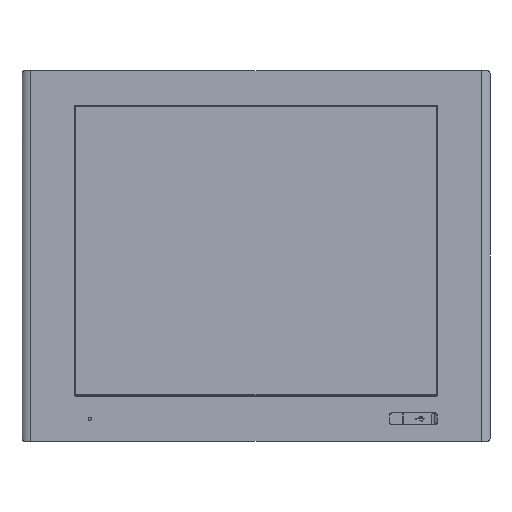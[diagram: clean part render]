
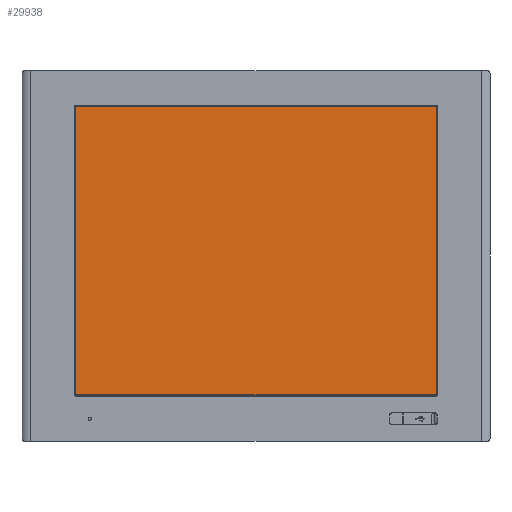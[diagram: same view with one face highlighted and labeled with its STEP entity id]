
A CAD part, front view. The second image highlights one B-rep face of the part: STEP entity #29938.
In plain terms, the highlighted planar face has unit normal (0, -1, 0).
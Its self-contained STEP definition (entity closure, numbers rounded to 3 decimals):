
#29734=DIRECTION('',(1.,0.,0.));
#29735=VECTOR('',#29734,377.3);
#29736=CARTESIAN_POINT('',(-188.65,-2.8,146.525));
#29737=LINE('',#29736,#29735);
#29738=DIRECTION('',(0.,0.,-1.));
#29739=VECTOR('',#29738,302.05);
#29740=CARTESIAN_POINT('',(188.65,-2.8,146.525));
#29741=LINE('',#29740,#29739);
#29742=DIRECTION('',(-1.,0.,0.));
#29743=VECTOR('',#29742,377.3);
#29744=CARTESIAN_POINT('',(188.65,-2.8,-155.525));
#29745=LINE('',#29744,#29743);
#29746=DIRECTION('',(0.,0.,1.));
#29747=VECTOR('',#29746,302.05);
#29748=CARTESIAN_POINT('',(-188.65,-2.8,-155.525));
#29749=LINE('',#29748,#29747);
#29778=CARTESIAN_POINT('',(188.65,-2.8,146.525));
#29779=CARTESIAN_POINT('',(-188.65,-2.8,146.525));
#29780=VERTEX_POINT('',#29778);
#29781=VERTEX_POINT('',#29779);
#29782=CARTESIAN_POINT('',(-188.65,-2.8,-155.525));
#29783=VERTEX_POINT('',#29782);
#29784=CARTESIAN_POINT('',(188.65,-2.8,-155.525));
#29785=VERTEX_POINT('',#29784);
#29923=CARTESIAN_POINT('',(-1.25,-2.8,-4.495));
#29924=DIRECTION('',(0.,-1.,0.));
#29925=DIRECTION('',(1.,0.,0.));
#29926=AXIS2_PLACEMENT_3D('',#29923,#29924,#29925);
#29927=PLANE('',#29926);
#29929=ORIENTED_EDGE('',*,*,#29928,.T.);
#29931=ORIENTED_EDGE('',*,*,#29930,.T.);
#29933=ORIENTED_EDGE('',*,*,#29932,.T.);
#29935=ORIENTED_EDGE('',*,*,#29934,.T.);
#29936=EDGE_LOOP('',(#29929,#29931,#29933,#29935));
#29937=FACE_OUTER_BOUND('',#29936,.F.);
#29928=EDGE_CURVE('',#29781,#29780,#29737,.T.);
#29930=EDGE_CURVE('',#29780,#29785,#29741,.T.);
#29932=EDGE_CURVE('',#29785,#29783,#29745,.T.);
#29934=EDGE_CURVE('',#29783,#29781,#29749,.T.);
#29938=ADVANCED_FACE('',(#29937),#29927,.T.);
